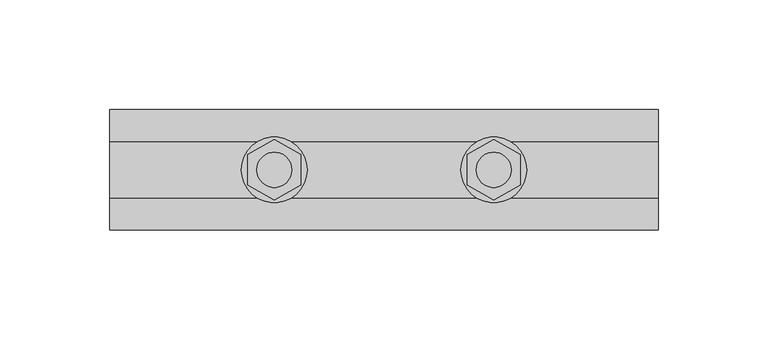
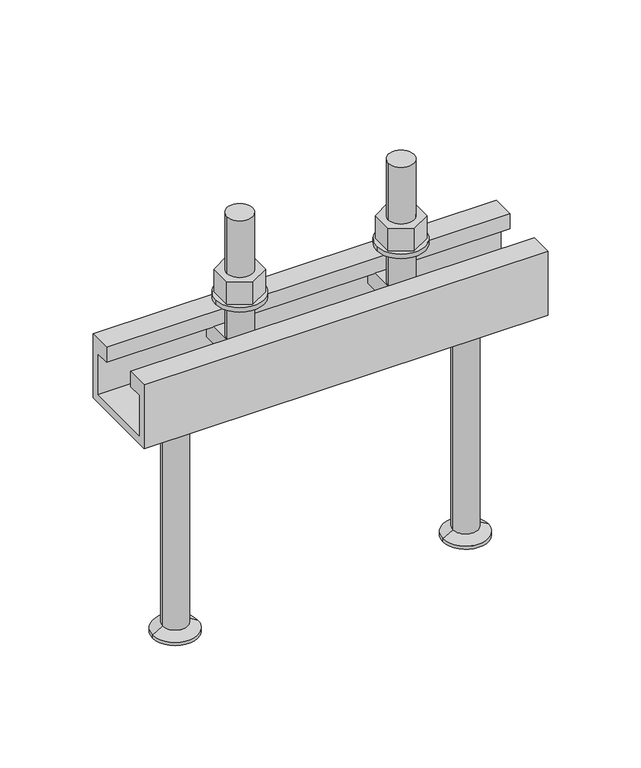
"""IFC4 building model written with IfcOpenShell, lengths in millimetres: fastener geometry, JTA-W JORDAHL® AnchorChannels : JTA-W L=250 mm."""

from ifc_helpers import new_model, si_unit, point, frame, frame_2d, origin, place, context, project, spatial, polyline, circle_curve, trimmed, segment, composite_curve, outline, extrude, source, transform, mapped, element, save
from ifc_brep_helpers import plane_surface, cylinder_surface, revolved_surface, advanced_brep


def fastener_f18ef81e(model_context):
    return source(origin(), model_context, "Body", "SolidModel", [
        extrude(outline(polyline([(175.0, -13.8564065), (163.0, -6.9282032), (163.0, 6.9282032), (175.0, 13.8564065), (187.0, 6.9282032), (187.0, -6.9282032), (175.0, -13.8564065)]), holes=[composite_curve([segment(trimmed(circle_curve(frame_2d((175.0, 0.0)), 8.0), [point((167.0, 0.0))], [point((183.0, 0.0))], True, "CARTESIAN"), True, "CONTINUOUS"), segment(trimmed(circle_curve(frame_2d((175.0, 0.0)), 8.0), [point((183.0, 0.0))], [point((167.0, 0.0))], True, "CARTESIAN"), True, "CONTINUOUS")], self_intersect=False)]), frame((0.0, 0.0, 18.0), z_axis=(0.0, 0.0, 1.0), x_axis=(1.0, 0.0, 0.0)), (0.0, 0.0, 1.0), 14.8),
        extrude(outline(composite_curve([segment(trimmed(circle_curve(frame_2d((175.0, 0.0)), 15.0), [point((160.0, 0.0))], [point((190.0, 0.0))], False, "CARTESIAN"), True, "CONTINUOUS"), segment(trimmed(circle_curve(frame_2d((175.0, 0.0)), 15.0), [point((190.0, 0.0))], [point((160.0, 0.0))], False, "CARTESIAN"), True, "CONTINUOUS")], self_intersect=False), holes=[composite_curve([segment(trimmed(circle_curve(frame_2d((175.0, 0.0)), 8.5), [point((166.5, 0.0))], [point((183.5, 0.0))], True, "CARTESIAN"), True, "CONTINUOUS"), segment(trimmed(circle_curve(frame_2d((175.0, 0.0)), 8.5), [point((183.5, 0.0))], [point((166.5, 0.0))], True, "CARTESIAN"), True, "CONTINUOUS")], self_intersect=False)]), frame((0.0, 0.0, 15.0), z_axis=(0.0, 0.0, 1.0), x_axis=(1.0, 0.0, 0.0)), (0.0, 0.0, 1.0), 3.0),
        extrude(outline(polyline([(75.0, -13.8564065), (63.0, -6.9282032), (63.0, 6.9282032), (75.0, 13.8564065), (87.0, 6.9282032), (87.0, -6.9282032), (75.0, -13.8564065)]), holes=[composite_curve([segment(trimmed(circle_curve(frame_2d((75.0, 0.0)), 8.0), [point((67.0, 0.0))], [point((83.0, 0.0))], True, "CARTESIAN"), True, "CONTINUOUS"), segment(trimmed(circle_curve(frame_2d((75.0, 0.0)), 8.0), [point((83.0, 0.0))], [point((67.0, 0.0))], True, "CARTESIAN"), True, "CONTINUOUS")], self_intersect=False)]), frame((0.0, 0.0, 18.0), z_axis=(0.0, 0.0, 1.0), x_axis=(1.0, 0.0, 0.0)), (0.0, 0.0, 1.0), 14.8),
        extrude(outline(composite_curve([segment(trimmed(circle_curve(frame_2d((75.0, 0.0)), 15.0), [point((60.0, 0.0))], [point((90.0, 0.0))], False, "CARTESIAN"), True, "CONTINUOUS"), segment(trimmed(circle_curve(frame_2d((75.0, 0.0)), 15.0), [point((90.0, 0.0))], [point((60.0, 0.0))], False, "CARTESIAN"), True, "CONTINUOUS")], self_intersect=False), holes=[composite_curve([segment(trimmed(circle_curve(frame_2d((75.0, 0.0)), 8.5), [point((66.5, 0.0))], [point((83.5, 0.0))], True, "CARTESIAN"), True, "CONTINUOUS"), segment(trimmed(circle_curve(frame_2d((75.0, 0.0)), 8.5), [point((83.5, 0.0))], [point((66.5, 0.0))], True, "CARTESIAN"), True, "CONTINUOUS")], self_intersect=False)]), frame((0.0, 0.0, 15.0), z_axis=(0.0, 0.0, 1.0), x_axis=(1.0, 0.0, 0.0)), (0.0, 0.0, 1.0), 3.0),
        advanced_brep(
        [(183.5, -20.7, -10.0), (183.5, -20.7, -21.0), (183.5, 20.7, -21.0), (183.5, 20.7, -10.0), (166.5, -20.7, -10.0), (166.5, 20.7, -10.0), (166.5, 20.7, -21.0), (166.5, -20.7, -21.0), (183.0, 0.0, -10.0), (167.0, 0.0, -10.0), (167.0, 0.0, 70.0), (183.0, 0.0, 70.0)],
        [
            (0, 1),
            (1, 2),
            (2, 3),
            (3, 0),
            (4, 5),
            (5, 6),
            (6, 7),
            (7, 4),
            (3, 5),
            (4, 0),
            (8, 9, circle_curve(frame((175.0, 0.0, -10.0), z_axis=(0.0, 0.0, -1.0), x_axis=(1.0, 0.0, 0.0)), 8.0)),
            (9, 8, circle_curve(frame((175.0, 0.0, -10.0), z_axis=(0.0, 0.0, -1.0), x_axis=(1.0, 0.0, 0.0)), 8.0)),
            (2, 6),
            (1, 7),
            (10, 11, circle_curve(frame((175.0, 0.0, 70.0), z_axis=(0.0, 0.0, 1.0), x_axis=(1.0, 0.0, 0.0)), 8.0)),
            (11, 10, circle_curve(frame((175.0, 0.0, 70.0), z_axis=(0.0, 0.0, 1.0), x_axis=(1.0, 0.0, 0.0)), 8.0)),
            (11, 8),
            (9, 10),
        ],
        [
            plane_surface(frame((183.5, 20.7, -10.0), z_axis=(1.0, 0.0, 0.0), x_axis=(0.0, 1.0, 0.0))),
            plane_surface(frame((166.5, 20.7, -10.0), z_axis=(-1.0, 0.0, 0.0), x_axis=(0.0, -1.0, 0.0))),
            plane_surface(frame((183.5, -20.7, -10.0), z_axis=(0.0, 0.0, 1.0), x_axis=(-1.0, 0.0, 0.0))),
            plane_surface(frame((183.5, 20.7, -10.0), z_axis=(0.0, 1.0, 0.0), x_axis=(-1.0, 0.0, 0.0))),
            plane_surface(frame((183.5, 20.7, -21.0), z_axis=(0.0, 0.0, -1.0), x_axis=(-1.0, 0.0, 0.0))),
            plane_surface(frame((183.5, -20.7, -21.0), z_axis=(0.0, -1.0, 0.0), x_axis=(-1.0, 0.0, 0.0))),
            plane_surface(frame((183.0, 0.0, 70.0), z_axis=(0.0, 0.0, 1.0), x_axis=(0.0, -1.0, 0.0))),
            cylinder_surface(frame((175.0, 0.0, -10.0), z_axis=(0.0, 0.0, 1.0), x_axis=(1.0, 0.0, 0.0)), 8.0),
        ],
        [
            (0, [[1, 2, 3, 4]]),
            (1, [[5, 6, 7, 8]]),
            (2, [[9, -5, 10, -4], [11, 12]]),
            (3, [[13, -6, -9, -3]]),
            (4, [[14, -7, -13, -2]]),
            (5, [[-10, -8, -14, -1]]),
            (6, [[15, 16]]),
            (7, [[17, -12, 18, -16]]),
            (7, [[-18, -11, -17, -15]]),
        ],
    ),
        advanced_brep(
        [(83.5, -20.7, -10.0), (83.5, -20.7, -21.0), (83.5, 20.7, -21.0), (83.5, 20.7, -10.0), (66.5, -20.7, -10.0), (66.5, 20.7, -10.0), (66.5, 20.7, -21.0), (66.5, -20.7, -21.0), (83.0, 0.0, -10.0), (67.0, 0.0, -10.0), (67.0, 0.0, 70.0), (83.0, 0.0, 70.0)],
        [
            (0, 1),
            (1, 2),
            (2, 3),
            (3, 0),
            (4, 5),
            (5, 6),
            (6, 7),
            (7, 4),
            (3, 5),
            (4, 0),
            (8, 9, circle_curve(frame((75.0, 0.0, -10.0), z_axis=(0.0, 0.0, -1.0), x_axis=(1.0, 0.0, 0.0)), 8.0)),
            (9, 8, circle_curve(frame((75.0, 0.0, -10.0), z_axis=(0.0, 0.0, -1.0), x_axis=(1.0, 0.0, 0.0)), 8.0)),
            (2, 6),
            (1, 7),
            (10, 11, circle_curve(frame((75.0, 0.0, 70.0), z_axis=(0.0, 0.0, 1.0), x_axis=(1.0, 0.0, 0.0)), 8.0)),
            (11, 10, circle_curve(frame((75.0, 0.0, 70.0), z_axis=(0.0, 0.0, 1.0), x_axis=(1.0, 0.0, 0.0)), 8.0)),
            (11, 8),
            (9, 10),
        ],
        [
            plane_surface(frame((83.5, 20.7, -10.0), z_axis=(1.0, 0.0, 0.0), x_axis=(0.0, 1.0, 0.0))),
            plane_surface(frame((66.5, 20.7, -10.0), z_axis=(-1.0, 0.0, 0.0), x_axis=(0.0, -1.0, 0.0))),
            plane_surface(frame((83.5, -20.7, -10.0), z_axis=(0.0, 0.0, 1.0), x_axis=(-1.0, 0.0, 0.0))),
            plane_surface(frame((83.5, 20.7, -10.0), z_axis=(0.0, 1.0, 0.0), x_axis=(-1.0, 0.0, 0.0))),
            plane_surface(frame((83.5, 20.7, -21.0), z_axis=(0.0, 0.0, -1.0), x_axis=(-1.0, 0.0, 0.0))),
            plane_surface(frame((83.5, -20.7, -21.0), z_axis=(0.0, -1.0, 0.0), x_axis=(-1.0, 0.0, 0.0))),
            plane_surface(frame((83.0, 0.0, 70.0), z_axis=(0.0, 0.0, 1.0), x_axis=(0.0, -1.0, 0.0))),
            cylinder_surface(frame((75.0, 0.0, -10.0), z_axis=(0.0, 0.0, 1.0), x_axis=(1.0, 0.0, 0.0)), 8.0),
        ],
        [
            (0, [[1, 2, 3, 4]]),
            (1, [[5, 6, 7, 8]]),
            (2, [[9, -5, 10, -4], [11, 12]]),
            (3, [[13, -6, -9, -3]]),
            (4, [[14, -7, -13, -2]]),
            (5, [[-10, -8, -14, -1]]),
            (6, [[15, 16]]),
            (7, [[17, -12, 18, -16]]),
            (7, [[-18, -11, -17, -15]]),
        ],
    ),
        advanced_brep(
        [(215.0, 0.0, -42.0), (192.0, 0.0, -42.0), (238.0, 0.0, -42.0), (201.0, 0.0, -190.0), (215.0, 0.0, -190.0), (229.0, 0.0, -190.0), (201.0, 0.0, -188.0), (229.0, 0.0, -188.0), (207.2, 0.0, -184.4204283), (222.8, 0.0, -184.4204283), (207.2, 0.0, -46.0), (222.8, 0.0, -46.0)],
        [
            (0, 1),
            (1, 2, circle_curve(frame((215.0, 0.0, -42.0), z_axis=(0.0, 0.0, 1.0), x_axis=(1.0, 0.0, 0.0)), 23.0)),
            (2, 0),
            (2, 1, circle_curve(frame((215.0, 0.0, -42.0), z_axis=(0.0, 0.0, 1.0), x_axis=(1.0, 0.0, 0.0)), 23.0)),
            (3, 4),
            (4, 5),
            (5, 3, circle_curve(frame((215.0, 0.0, -190.0), z_axis=(0.0, 0.0, -1.0), x_axis=(1.0, 0.0, 0.0)), 14.0)),
            (3, 5, circle_curve(frame((215.0, 0.0, -190.0), z_axis=(0.0, 0.0, -1.0), x_axis=(1.0, 0.0, 0.0)), 14.0)),
            (6, 3),
            (5, 7),
            (7, 6, circle_curve(frame((215.0, 0.0, -188.0), z_axis=(0.0, 0.0, -1.0), x_axis=(1.0, 0.0, 0.0)), 14.0)),
            (6, 7, circle_curve(frame((215.0, 0.0, -188.0), z_axis=(0.0, 0.0, -1.0), x_axis=(1.0, 0.0, 0.0)), 14.0)),
            (8, 6),
            (7, 9),
            (9, 8, circle_curve(frame((215.0, 0.0, -184.4204283), z_axis=(0.0, 0.0, -1.0), x_axis=(1.0, 0.0, 0.0)), 7.8)),
            (8, 9, circle_curve(frame((215.0, 0.0, -184.4204283), z_axis=(0.0, 0.0, -1.0), x_axis=(1.0, 0.0, 0.0)), 7.8)),
            (10, 8),
            (9, 11),
            (11, 10, circle_curve(frame((215.0, 0.0, -46.0), z_axis=(0.0, 0.0, -1.0), x_axis=(1.0, 0.0, 0.0)), 7.8)),
            (10, 11, circle_curve(frame((215.0, 0.0, -46.0), z_axis=(0.0, 0.0, -1.0), x_axis=(1.0, 0.0, 0.0)), 7.8)),
            (1, 10),
            (11, 2),
        ],
        [
            plane_surface(frame((215.0, 0.0, -42.0), z_axis=(0.0, 0.0, 1.0), x_axis=(1.0, 0.0, 0.0))),
            plane_surface(frame((215.0, 0.0, -190.0), z_axis=(0.0, 0.0, -1.0), x_axis=(1.0, 0.0, 0.0))),
            cylinder_surface(frame((215.0, 0.0, 2362.3150031), z_axis=(0.0, 0.0, 1.0), x_axis=(1.0, 0.0, 0.0)), 14.0),
            revolved_surface(polyline([(229.0, 0.0, -188.0), (222.8, 0.0, -184.4204283)]), (215.0, 0.0, 2362.3150031), (0.0, 0.0, 1.0)),
            cylinder_surface(frame((215.0, 0.0, 2362.3150031), z_axis=(0.0, 0.0, 1.0), x_axis=(1.0, 0.0, 0.0)), 7.8),
            revolved_surface(polyline([(222.8, 0.0, -46.0), (238.0, 0.0, -42.0)]), (215.0, 0.0, 2362.3150031), (0.0, 0.0, 1.0)),
        ],
        [
            (0, [[1, 2, 3]]),
            (0, [[-3, 4, -1]]),
            (1, [[5, 6, 7]]),
            (1, [[-6, -5, 8]]),
            (2, [[9, -7, 10, 11]]),
            (2, [[-10, -8, -9, 12]]),
            (3, [[13, -11, 14, 15]]),
            (3, [[-14, -12, -13, 16]]),
            (4, [[17, -15, 18, 19]]),
            (4, [[-18, -16, -17, 20]]),
            (5, [[21, -19, 22, -2]]),
            (5, [[-22, -20, -21, -4]]),
        ],
    ),
        advanced_brep(
        [(35.0, 0.0, -42.0), (12.0, 0.0, -42.0), (58.0, 0.0, -42.0), (21.0, 0.0, -190.0), (35.0, 0.0, -190.0), (49.0, 0.0, -190.0), (21.0, 0.0, -188.0), (49.0, 0.0, -188.0), (27.2, 0.0, -184.4204283), (42.8, 0.0, -184.4204283), (27.2, 0.0, -46.0), (42.8, 0.0, -46.0)],
        [
            (0, 1),
            (1, 2, circle_curve(frame((35.0, 0.0, -42.0), z_axis=(0.0, 0.0, 1.0), x_axis=(1.0, 0.0, 0.0)), 23.0)),
            (2, 0),
            (2, 1, circle_curve(frame((35.0, 0.0, -42.0), z_axis=(0.0, 0.0, 1.0), x_axis=(1.0, 0.0, 0.0)), 23.0)),
            (3, 4),
            (4, 5),
            (5, 3, circle_curve(frame((35.0, 0.0, -190.0), z_axis=(0.0, 0.0, -1.0), x_axis=(1.0, 0.0, 0.0)), 14.0)),
            (3, 5, circle_curve(frame((35.0, 0.0, -190.0), z_axis=(0.0, 0.0, -1.0), x_axis=(1.0, 0.0, 0.0)), 14.0)),
            (6, 3),
            (5, 7),
            (7, 6, circle_curve(frame((35.0, 0.0, -188.0), z_axis=(0.0, 0.0, -1.0), x_axis=(1.0, 0.0, 0.0)), 14.0)),
            (6, 7, circle_curve(frame((35.0, 0.0, -188.0), z_axis=(0.0, 0.0, -1.0), x_axis=(1.0, 0.0, 0.0)), 14.0)),
            (8, 6),
            (7, 9),
            (9, 8, circle_curve(frame((35.0, 0.0, -184.4204283), z_axis=(0.0, 0.0, -1.0), x_axis=(1.0, 0.0, 0.0)), 7.8)),
            (8, 9, circle_curve(frame((35.0, 0.0, -184.4204283), z_axis=(0.0, 0.0, -1.0), x_axis=(1.0, 0.0, 0.0)), 7.8)),
            (10, 8),
            (9, 11),
            (11, 10, circle_curve(frame((35.0, 0.0, -46.0), z_axis=(0.0, 0.0, -1.0), x_axis=(1.0, 0.0, 0.0)), 7.8)),
            (10, 11, circle_curve(frame((35.0, 0.0, -46.0), z_axis=(0.0, 0.0, -1.0), x_axis=(1.0, 0.0, 0.0)), 7.8)),
            (1, 10),
            (11, 2),
        ],
        [
            plane_surface(frame((35.0, 0.0, -42.0), z_axis=(0.0, 0.0, 1.0), x_axis=(1.0, 0.0, 0.0))),
            plane_surface(frame((35.0, 0.0, -190.0), z_axis=(0.0, 0.0, -1.0), x_axis=(1.0, 0.0, 0.0))),
            cylinder_surface(frame((35.0, 0.0, 2362.3150031), z_axis=(0.0, 0.0, 1.0), x_axis=(1.0, 0.0, 0.0)), 14.0),
            revolved_surface(polyline([(49.0, 0.0, -188.0), (42.8, 0.0, -184.4204283)]), (35.0, 0.0, 2362.3150031), (0.0, 0.0, 1.0)),
            cylinder_surface(frame((35.0, 0.0, 2362.3150031), z_axis=(0.0, 0.0, 1.0), x_axis=(1.0, 0.0, 0.0)), 7.8),
            revolved_surface(polyline([(42.8, 0.0, -46.0), (58.0, 0.0, -42.0)]), (35.0, 0.0, 2362.3150031), (0.0, 0.0, 1.0)),
        ],
        [
            (0, [[1, 2, 3]]),
            (0, [[-3, 4, -1]]),
            (1, [[5, 6, 7]]),
            (1, [[-6, -5, 8]]),
            (2, [[9, -7, 10, 11]]),
            (2, [[-10, -8, -9, 12]]),
            (3, [[13, -11, 14, 15]]),
            (3, [[-14, -12, -13, 16]]),
            (4, [[17, -15, 18, 19]]),
            (4, [[-18, -16, -17, 20]]),
            (5, [[21, -19, 22, -2]]),
            (5, [[-22, -20, -21, -4]]),
        ],
    ),
        extrude(outline(polyline([(-27.5, 0.0), (-13.0, 0.0), (-13.0, -10.0), (-22.5, -10.0), (-22.5, -37.0), (22.5, -37.0), (22.5, -10.0), (13.0, -10.0), (13.0, 0.0), (27.5, 0.0), (27.5, -42.0), (-27.5, -42.0), (-27.5, 0.0)])), frame((0.0, 0.0, 0.0), z_axis=(1.0, 0.0, 0.0), x_axis=(0.0, 1.0, 0.0)), (0.0, 0.0, 1.0), 250.0),
    ])


if __name__ == "__main__":
    model = new_model("IFC4")
    model_context = context("Model", 3, world=origin())
    ifc_project = project(units=[si_unit("LENGTHUNIT", "METRE", prefix="MILLI")], contexts=[model_context])
    site = spatial("IfcSite", under=ifc_project)
    building = spatial("IfcBuilding", under=site)
    placement = place(None, origin())
    fastener_shape = fastener_f18ef81e(model_context)
    element("IfcFastener", 1, ObjectType="JTA-W JORDAHL® AnchorChannels : JTA-W L=250 mm", at=placement, inside=building, context=model_context, shape_type="MappedRepresentation", body=[
        mapped(fastener_shape, transform((0.0, 0.0, 0.0), x_axis=(1.0, 0.0, 0.0), y_axis=(0.0, 1.0, 0.0), z_axis=(0.0, 0.0, 1.0))),
    ])
    save(model, "model.ifc")
